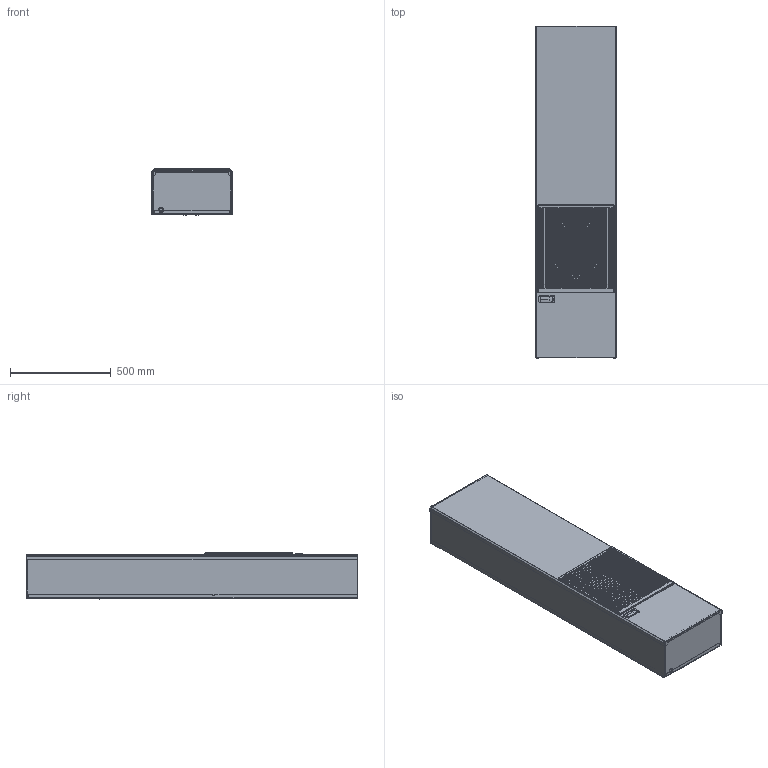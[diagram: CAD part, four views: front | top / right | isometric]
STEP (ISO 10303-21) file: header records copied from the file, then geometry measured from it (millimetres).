
FILE_DESCRIPTION(/* description */ (''),/* implementation_level */ '2;1');
FILE_NAME(/* name */ 'CCU(30-40)A403WSIyX_rh',/* time_stamp */ '2025-05-22T12:11:51+02:00',/* author */ (''),/* organization */ (''),/* preprocessor_version */ 'ST-DEVELOPER v16.5',/* originating_system */ 'Rhino 7.38',/* authorisation */ '');
FILE_SCHEMA (('AUTOMOTIVE_DESIGN'));
Length unit declared in the file: millimetre
Products named in the file (1): Document
Bounding box: 405 x 1650.5 x 230.7 mm (x, y, z)
Volume: 1758788 mm3; surface area: 4956222.9 mm2
Topology: 5 solids, 6 shells, 1965 faces, 5576 edges, 3645 vertices
Faces by surface type: plane 1757, cylinder 159, bspline 49
Entity records: 61266 total; most frequent: CARTESIAN_POINT 22581, ORIENTED_EDGE 11135, EDGE_CURVE 5575, B_SPLINE_CURVE_WITH_KNOTS 5263, VERTEX_POINT 3645, EDGE_LOOP 2643, ADVANCED_FACE 1965, FACE_OUTER_BOUND 1965
